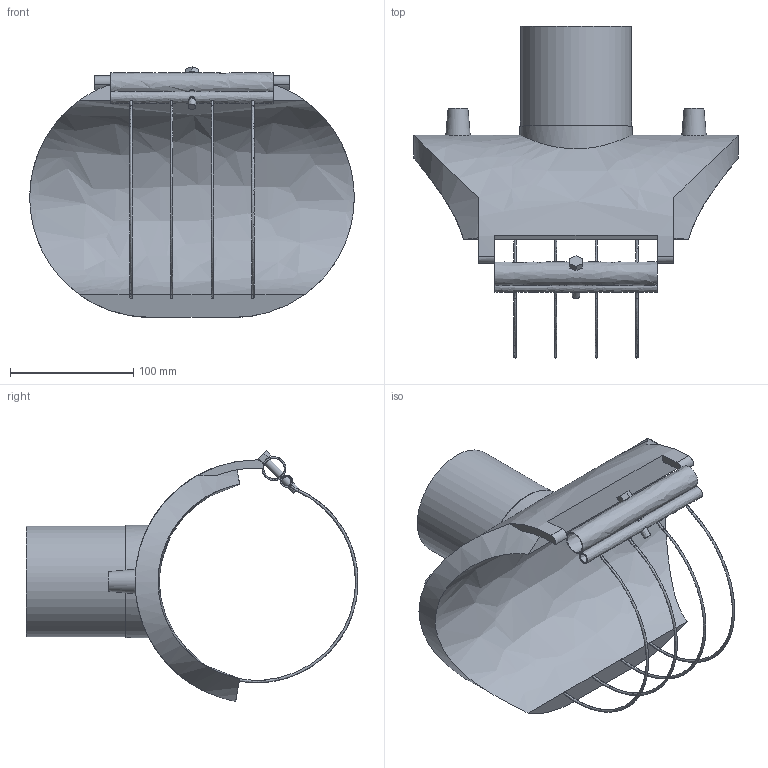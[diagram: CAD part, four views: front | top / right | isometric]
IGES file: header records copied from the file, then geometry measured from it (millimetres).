
Global section: file name: 4958X4160090T; native system: Autodesk Inventor 2021; preprocessor: unknown; author: KIM; date: 20250507.121511; units: millimetre
Bounding box: 263 x 269 x 203.14 mm (x, y, z)
Volume: 1255239.7 mm3; surface area: 211943.8 mm2
Topology: 1 solids, 1 shells, 61 faces, 185 edges, 125 vertices
Faces by surface type: bspline 61
